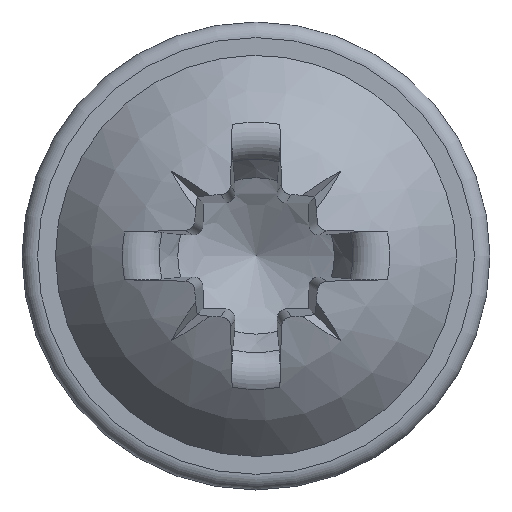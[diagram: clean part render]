
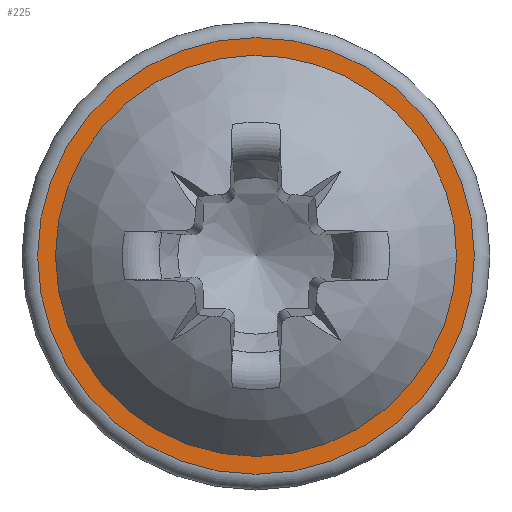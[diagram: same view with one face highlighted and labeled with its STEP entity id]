
A CAD part, top view. The second image highlights one B-rep face of the part: STEP entity #225.
In plain terms, the highlighted planar face has unit normal (0, 0, 1).
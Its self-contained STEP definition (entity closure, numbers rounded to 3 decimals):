
#155=PLANE('',#1297);
#199=FACE_BOUND('',#379,.T.);
#200=FACE_BOUND('',#380,.T.);
#225=ADVANCED_FACE('',(#199,#200),#155,.F.);
#379=EDGE_LOOP('',(#572));
#380=EDGE_LOOP('',(#573));
#452=CIRCLE('',#1255,3.);
#487=CIRCLE('',#1296,3.267);
#572=ORIENTED_EDGE('',*,*,#1051,.T.);
#573=ORIENTED_EDGE('',*,*,#1002,.F.);
#880=VERTEX_POINT('',#2243);
#927=VERTEX_POINT('',#2555);
#1002=EDGE_CURVE('',#880,#880,#452,.T.);
#1051=EDGE_CURVE('',#927,#927,#487,.T.);
#1255=AXIS2_PLACEMENT_3D('',#2242,#1366,#1367);
#1296=AXIS2_PLACEMENT_3D('',#2554,#1448,#1449);
#1297=AXIS2_PLACEMENT_3D('',#2556,#1450,#1451);
#1366=DIRECTION('',(0.,0.,1.));
#1367=DIRECTION('',(1.,0.,0.));
#1448=DIRECTION('',(0.,0.,1.));
#1449=DIRECTION('',(-1.,0.,0.));
#1450=DIRECTION('',(0.,0.,-1.));
#1451=DIRECTION('',(-1.,0.,0.));
#2242=CARTESIAN_POINT('',(0.,0.,0.8));
#2243=CARTESIAN_POINT('',(3.,0.,0.8));
#2554=CARTESIAN_POINT('',(0.,0.,0.8));
#2555=CARTESIAN_POINT('',(-3.267,0.,0.8));
#2556=CARTESIAN_POINT('',(0.,3.5,0.8));
